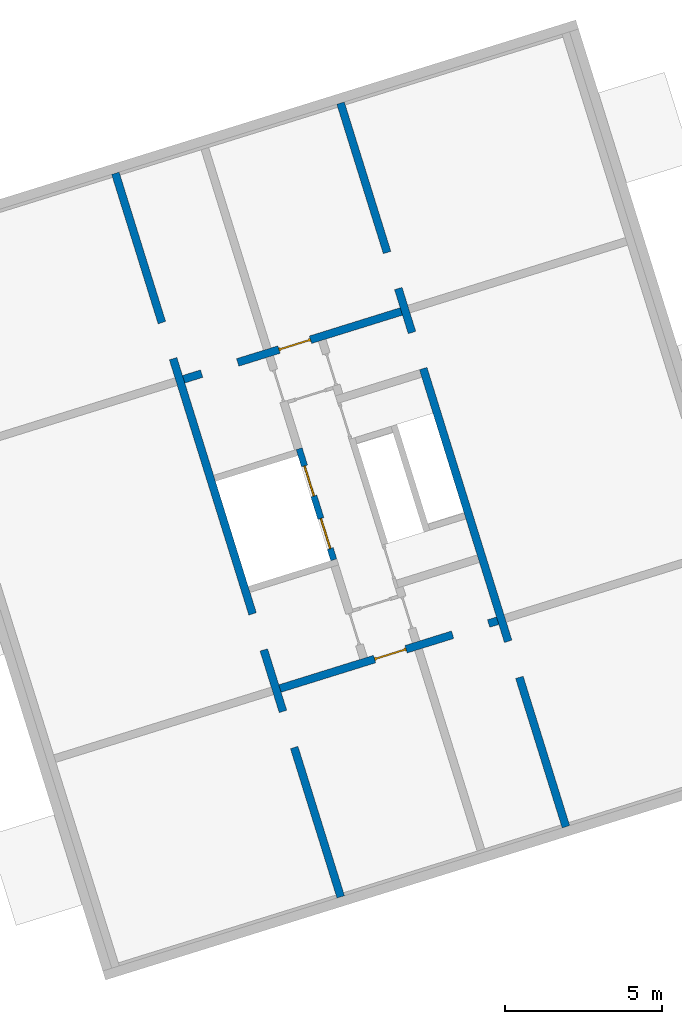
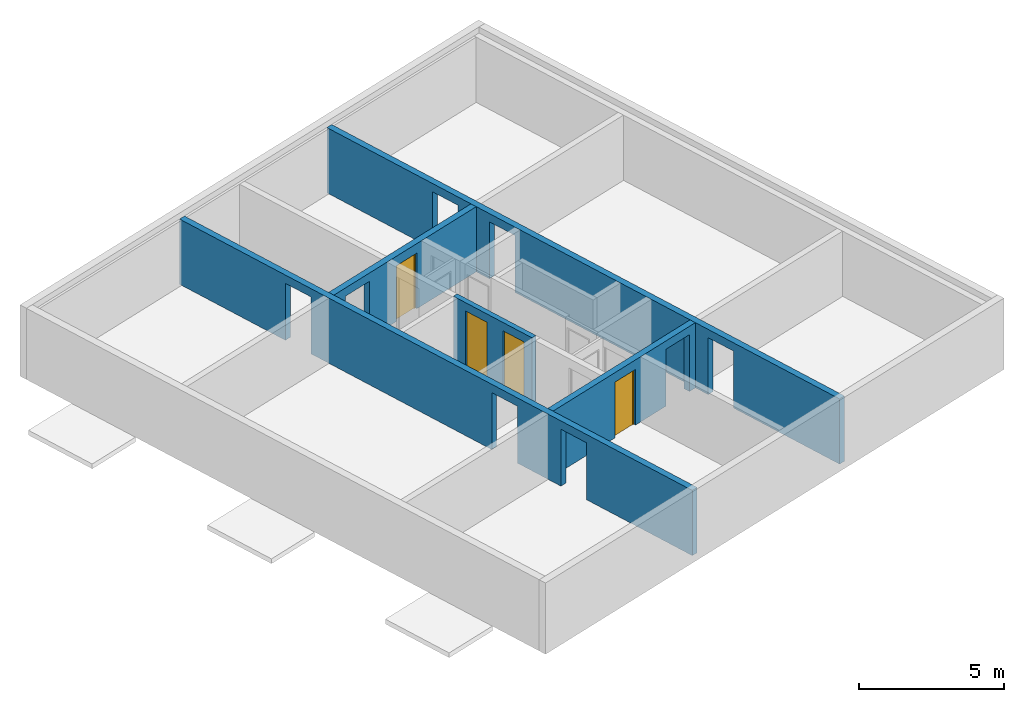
# One storey, part 3 of 3: 5 walls, 4 doors, 12 openings.
"""IFC4 building model written with IfcOpenShell, lengths in metres."""

from ifc_helpers import new_model, entity, si_unit, converted_unit, direction, frame, origin, place, context, subcontext, project, spatial, indexed_curve, outline, extrude, polygons, source, transform, mapped, material, constituent, constituent_set, type_object, type_shapes, element, fill, save


model = new_model("IFC4")

# Units and contexts
model_context = context("Model", 3, precision=1e-05, world=origin(), true_north=direction((6.12323399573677e-17, 1.0)))
body_context = subcontext(model_context, "Body", "Model", "MODEL_VIEW")
ifc_project = project(units=[si_unit("LENGTHUNIT", "METRE"), si_unit("AREAUNIT", "SQUARE_METRE"), si_unit("VOLUMEUNIT", "CUBIC_METRE"), converted_unit("PLANEANGLEUNIT", "DEGREE", entity("IfcPlaneAngleMeasure", 0.0174532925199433), si_unit("PLANEANGLEUNIT", "RADIAN"), dimensions=[0, 0, 0, 0, 0, 0, 0])], contexts=[model_context])

# Site, building, storey
site_placement = place(None, frame((13.1347999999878, 11.9886000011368, 0.0), z_axis=(0.0, 0.0, 1.0), x_axis=(0.954770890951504, 0.297342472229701, 0.0)))
site = spatial("IfcSite", under=ifc_project, at=site_placement, Name="Schiehaven", CompositionType="ELEMENT")
building_placement = place(site_placement, origin())
building = spatial("IfcBuilding", under=site, at=building_placement, Name="VORM huis", CompositionType="ELEMENT")
storey_placement = place(building_placement, frame((0.0, 0.0, 24.9)))
storey = spatial("IfcBuildingStorey", under=building, at=storey_placement, Name="08 achtste verdieping", CompositionType="ELEMENT", Elevation=24.9)

# Wall, openings
ifc_material_1 = material(Name="beton_gewapend_ihw", Category="Miscellaneous")
wall_type_1 = type_object("IfcWallType", Name="Basic Wall:28_WA_skelet_wand 250mm_gen", PredefinedType="STANDARD")
wall_1_placement = place(storey_placement, frame((12.5, 5.0, 0.0), z_axis=(0.0, 0.0, 1.0), x_axis=(0.0, 1.0, 0.0)))
wall_1 = element("IfcWall", 1, at=wall_1_placement, inside=storey, type_object=wall_type_1, material=ifc_material_1, Name="Constructieve wand", ObjectType="Wand", PredefinedType="NOTDEFINED", context=body_context, shape_type="Tessellation", body=[
    polygons([(24.1, -0.125, 0.0), (24.1, -0.125, 2.75), (17.325, -0.124999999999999, 2.75), (17.075, -0.125, 2.75), (7.025, -0.124999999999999, 2.75), (6.775, -0.125, 2.75), (2.16573425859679e-15, -0.124999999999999, 2.75), (2.16573425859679e-15, -0.124999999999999, 0.0), (4.975, -0.124999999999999, 0.0), (4.975, -0.124999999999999, 2.4), (6.175, -0.124999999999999, 2.4), (6.175, -0.124999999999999, 0.0), (6.775, -0.125, 0.0), (7.025, -0.124999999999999, 0.0), (8.22500000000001, -0.124999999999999, 0.0), (8.22500000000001, -0.124999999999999, 2.4), (9.425, -0.124999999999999, 2.4), (9.425, -0.124999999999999, 0.0), (17.075, -0.125, 0.0), (17.325, -0.124999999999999, 0.0), (17.925, -0.125, 0.0), (17.925, -0.125, 2.4), (19.125, -0.125, 2.4), (19.125, -0.125, 0.0), (24.1, 0.125, 2.75), (24.1, 0.125, 0.0), (19.125, 0.125, 0.0), (19.125, 0.125, 2.4), (17.925, 0.125, 2.4), (17.925, 0.125, 0.0), (9.425, 0.125, 0.0), (9.425, 0.125, 2.4), (8.225, 0.125, 2.4), (8.225, 0.125, 0.0), (6.175, 0.125, 0.0), (6.175, 0.125, 2.4), (4.975, 0.125000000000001, 2.4), (4.975, 0.125000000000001, 0.0), (1.08286712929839e-15, 0.125, 0.0), (0.0, 0.125, 2.75)], [[[1, 2, 3, 4, 5, 6, 7, 8, 9, 10, 11, 12, 13, 14, 15, 16, 17, 18, 19, 20, 21, 22, 23, 24]], [[25, 26, 27, 28, 29, 30, 31, 32, 33, 34, 35, 36, 37, 38, 39, 40]], [[8, 39, 38, 9]], [[2, 1, 26, 25]], [[7, 6, 5, 4, 3, 2, 25, 40]], [[8, 7, 40, 39]], [[10, 37, 36, 11]], [[37, 10, 9, 38]], [[11, 36, 35, 12]], [[16, 33, 32, 17]], [[33, 16, 15, 34]], [[17, 32, 31, 18]], [[22, 29, 28, 23]], [[29, 22, 21, 30]], [[23, 28, 27, 24]], [[12, 35, 34, 15, 14, 13]], [[18, 31, 30, 21, 20, 19]], [[26, 1, 24, 27]]], closed=True),
])
opening_1_placement = place(wall_1_placement, origin())
element("IfcOpeningElement", 2, at=opening_1_placement, cuts=wall_1, Name="Constructieve wand", PredefinedType="OPENING", context=body_context, shape_type="SweptSolid", body=[
    extrude(outline(indexed_curve([(-1.2, -0.599999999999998), (1.2, -0.599999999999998), (1.2, 0.599999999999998), (-1.2, 0.599999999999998), (-1.2, -0.599999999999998)], self_intersect=False)), frame((5.575, -0.124999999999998, 1.2), z_axis=(0.0, 1.0, 0.0), x_axis=(0.0, 0.0, -1.0)), (0.0, 0.0, 1.0), 0.249999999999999),
])
opening_2_placement = place(wall_1_placement, origin())
element("IfcOpeningElement", 3, at=opening_2_placement, cuts=wall_1, Name="Constructieve wand", PredefinedType="OPENING", context=body_context, shape_type="SweptSolid", body=[
    extrude(outline(indexed_curve([(-1.2, -0.599999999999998), (1.2, -0.599999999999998), (1.2, 0.599999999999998), (-1.2, 0.599999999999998), (-1.2, -0.599999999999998)], self_intersect=False)), frame((8.82500000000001, -0.124999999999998, 1.2), z_axis=(0.0, 1.0, 0.0), x_axis=(0.0, 0.0, -1.0)), (0.0, 0.0, 1.0), 0.249999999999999),
])
opening_3_placement = place(wall_1_placement, origin())
element("IfcOpeningElement", 4, at=opening_3_placement, cuts=wall_1, Name="Constructieve wand", PredefinedType="OPENING", context=body_context, shape_type="SweptSolid", body=[
    extrude(outline(indexed_curve([(-1.2, -0.599999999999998), (1.2, -0.599999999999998), (1.2, 0.600000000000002), (-1.2, 0.600000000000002), (-1.2, -0.599999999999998)], self_intersect=False)), frame((18.525, -0.124999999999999, 1.2), z_axis=(0.0, 1.0, 0.0), x_axis=(0.0, 0.0, -1.0)), (0.0, 0.0, 1.0), 0.249999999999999),
])

# Wall, openings, door
wall_2_placement = place(storey_placement, frame((12.6250000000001, 22.2, 0.0)))
wall_2 = element("IfcWall", 5, at=wall_2_placement, inside=storey, type_object=wall_type_1, material=ifc_material_1, Name="Constructieve wand", ObjectType="Wand", PredefinedType="NOTDEFINED", context=body_context, shape_type="Tessellation", body=[
    polygons([(4.225, -0.124999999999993, 2.34999999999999), (4.225, -0.124999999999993, 0.0), (7.25, -0.124999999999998, 0.0), (7.25, -0.124999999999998, 2.75), (8.76648531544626e-16, -0.124999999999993, 2.75), (3.04238279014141e-15, -0.124999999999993, 0.0), (0.600000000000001, -0.124999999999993, 0.0), (0.600000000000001, -0.124999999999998, 2.4), (1.8, -0.124999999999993, 2.4), (1.8, -0.124999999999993, 0.0), (3.175, -0.124999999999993, 0.0), (3.175, -0.124999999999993, 2.34999999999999), (7.25000000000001, 0.125000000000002, 0.0), (4.225, 0.125000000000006, 0.0), (4.225, 0.125000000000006, 2.34999999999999), (3.175, 0.125000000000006, 2.34999999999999), (3.175, 0.125000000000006, 0.0), (1.8, 0.125000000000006, 0.0), (1.8, 0.125000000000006, 2.4), (0.6, 0.125000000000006, 2.4), (0.6, 0.125000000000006, 0.0), (2.09575778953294e-15, 0.125000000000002, 0.0), (2.09575778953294e-15, 0.125000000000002, 2.75), (7.25000000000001, 0.125000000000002, 2.75)], [[[1, 2, 3, 4, 5, 6, 7, 8, 9, 10, 11, 12]], [[13, 14, 15, 16, 17, 18, 19, 20, 21, 22, 23, 24]], [[6, 22, 21, 7]], [[5, 4, 24, 23]], [[17, 16, 12, 11]], [[15, 14, 2, 1]], [[16, 15, 1, 12]], [[20, 8, 7, 21]], [[9, 19, 18, 10]], [[8, 20, 19, 9]], [[4, 3, 13, 24]], [[6, 5, 23, 22]], [[11, 10, 18, 17]], [[3, 2, 14, 13]]], closed=True),
])
opening_4_placement = place(wall_2_placement, origin())
element("IfcOpeningElement", 6, at=opening_4_placement, cuts=wall_2, Name="Constructieve wand", PredefinedType="OPENING", context=body_context, shape_type="SweptSolid", body=[
    extrude(outline(indexed_curve([(-1.2, -0.6), (1.2, -0.6), (1.2, 0.6), (-1.2, 0.6), (-1.2, -0.6)], self_intersect=False)), frame((1.2, -0.125000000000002, 1.2), z_axis=(0.0, 1.0, 0.0), x_axis=(0.0, 0.0, -1.0)), (0.0, 0.0, 1.0), 0.250000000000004),
])
opening_5_placement = place(wall_2_placement, frame((4.225, 0.124999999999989, 0.0)))
opening_5 = element("IfcOpeningElement", 7, at=opening_5_placement, cuts=wall_2, Name="Woningtoegangsdeur", PredefinedType="OPENING", context=body_context, shape_type="SweptSolid", body=[
    extrude(outline(indexed_curve([(2.34999999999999, 1.05), (0.0, 1.05), (0.0, 1.08286712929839e-15), (2.34999999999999, 1.08286712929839e-15), (2.34999999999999, 1.05)], self_intersect=False)), frame((0.0, 0.0, 0.0), z_axis=(0.0, -1.0, 0.0), x_axis=(0.0, 0.0, 1.0)), (0.0, 0.0, 1.0), 0.25),
])
ifc_material_2 = material(Name="PD_a_binnenwandopeningen", Category="Miscellaneous")
ifc_constituent_1 = constituent(ifc_material_2, Name="PD_a_binnenwandopeningen", Category="Miscellaneous")
ifc_material_3 = material(Name="metaal_aluminium_ntb", Category="Miscellaneous")
ifc_constituent_2 = constituent(ifc_material_3, Name="metaal_aluminium_ntb", Category="Miscellaneous")
ifc_constituent_set_1 = constituent_set(constituents=[ifc_constituent_1, ifc_constituent_2])
ifc_constituent_3 = constituent(ifc_material_2, Name="PD_a_binnenwandopeningen", Category="Miscellaneous")
ifc_constituent_4 = constituent(ifc_material_3, Name="Panel", Category="Miscellaneous")
ifc_constituent_set_2 = constituent_set(constituents=[ifc_constituent_3, ifc_constituent_4])
door_type_1 = type_object("IfcDoorType", Name="32_DO_binnendeur enkel:woningtoegangsdeur", OperationType="REVOLVING", PredefinedType="DOOR", material=ifc_constituent_set_2)
shared_shape_1 = source(origin(), body_context, "Body", "SweptSolid", [
    extrude(outline(indexed_curve([(-1.16249999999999, -0.525000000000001), (1.18749999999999, -0.525), (1.18749999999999, 0.525000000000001), (-1.16249999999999, 0.525000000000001), (-1.16249999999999, 0.475), (1.13749999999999, 0.475), (1.13749999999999, -0.475), (-1.16249999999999, -0.475), (-1.16249999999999, -0.525000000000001)], self_intersect=False)), frame((0.525000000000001, 0.0749999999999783, 1.16249999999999), z_axis=(0.0, 1.0, 0.0), x_axis=(0.0, 0.0, 1.0)), (0.0, 0.0, 1.0), 0.1),
    extrude(outline(indexed_curve([(-0.025, -0.475), (0.025, -0.475), (0.025, 0.475), (-0.025, 0.475), (-0.025, -0.475)], self_intersect=False)), frame((0.525000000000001, 0.12499999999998, 0.0), z_axis=(0.0, 0.0, 1.0), x_axis=(0.0, 1.0, 0.0)), (0.0, 0.0, 1.0), 2.29999999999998),
])
type_shapes(door_type_1, [shared_shape_1])
door_1_placement = place(opening_5_placement, frame((0.0, 0.0, 0.0), z_axis=(0.0, 0.0, 1.0), x_axis=(-1.0, 0.0, 0.0)))
door_1 = element("IfcDoor", 8, at=door_1_placement, inside=storey, type_object=door_type_1, material=ifc_constituent_set_1, Name="Woningtoegangsdeur", ObjectType="Deur", OperationType="REVOLVING", OverallHeight=2.34999999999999, OverallWidth=1.05, PredefinedType="DOOR", context=body_context, shape_type="MappedRepresentation", body=[
    mapped(shared_shape_1, transform((0.0, 0.0, 0.0), scale=1.0)),
])
fill(opening_5, door_1)

# Wall, openings
wall_3_placement = place(storey_placement, frame((20.0, 29.1, 0.0), z_axis=(0.0, 0.0, 1.0), x_axis=(0.0, -1.0, 0.0)))
wall_3 = element("IfcWall", 9, at=wall_3_placement, inside=storey, type_object=wall_type_1, material=ifc_material_1, Name="Constructieve wand", ObjectType="Wand", PredefinedType="NOTDEFINED", context=body_context, shape_type="Tessellation", body=[
    polygons([(24.1, -0.124999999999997, 0.0), (24.1, -0.124999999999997, 2.75), (17.325, -0.124999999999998, 2.75), (17.075, -0.125, 2.75), (7.02499999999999, -0.124999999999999, 2.75), (6.77499999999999, -0.124999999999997, 2.75), (0.0, -0.124999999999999, 2.75), (0.0, -0.124999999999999, 0.0), (4.975, -0.125, 0.0), (4.975, -0.125000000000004, 2.4), (6.175, -0.124999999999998, 2.4), (6.175, -0.124999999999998, 0.0), (6.77499999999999, -0.124999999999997, 0.0), (7.02499999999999, -0.124999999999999, 0.0), (7.64, -0.124999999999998, 0.0), (7.64, -0.124999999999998, 2.4), (8.84, -0.124999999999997, 2.4), (8.84, -0.124999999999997, 0.0), (17.075, -0.125, 0.0), (17.325, -0.124999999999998, 0.0), (17.925, -0.124999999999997, 0.0), (17.925, -0.124999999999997, 2.4), (19.125, -0.125000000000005, 2.4), (19.125, -0.124999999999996, 0.0), (24.1, 0.125000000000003, 2.75), (24.1, 0.125000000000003, 0.0), (19.125, 0.124999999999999, 0.0), (19.125, 0.124999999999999, 2.4), (17.925, 0.125000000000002, 2.4), (17.925, 0.125000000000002, 0.0), (8.83999999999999, 0.125000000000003, 0.0), (8.83999999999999, 0.125000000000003, 2.4), (7.64, 0.125000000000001, 2.4), (7.64, 0.125000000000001, 0.0), (6.17499999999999, 0.125000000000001, 0.0), (6.17499999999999, 0.125000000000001, 2.4), (4.975, 0.125, 2.4), (4.975, 0.125, 0.0), (-4.33146851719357e-15, 0.125000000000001, 0.0), (-4.33146851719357e-15, 0.125000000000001, 2.75)], [[[1, 2, 3, 4, 5, 6, 7, 8, 9, 10, 11, 12, 13, 14, 15, 16, 17, 18, 19, 20, 21, 22, 23, 24]], [[25, 26, 27, 28, 29, 30, 31, 32, 33, 34, 35, 36, 37, 38, 39, 40]], [[8, 39, 38, 9]], [[2, 1, 26, 25]], [[7, 6, 5, 4, 3, 2, 25, 40]], [[8, 7, 40, 39]], [[10, 37, 36, 11]], [[37, 10, 9, 38]], [[11, 36, 35, 12]], [[16, 33, 32, 17]], [[33, 16, 15, 34]], [[17, 32, 31, 18]], [[22, 29, 28, 23]], [[29, 22, 21, 30]], [[23, 28, 27, 24]], [[12, 35, 34, 15, 14, 13]], [[18, 31, 30, 21, 20, 19]], [[26, 1, 24, 27]]], closed=True),
])
opening_6_placement = place(wall_3_placement, origin())
element("IfcOpeningElement", 10, at=opening_6_placement, cuts=wall_3, Name="Constructieve wand", PredefinedType="OPENING", context=body_context, shape_type="SweptSolid", body=[
    extrude(outline(indexed_curve([(-1.2, -0.599999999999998), (1.2, -0.599999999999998), (1.2, 0.599999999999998), (-1.2, 0.599999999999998), (-1.2, -0.599999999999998)], self_intersect=False)), frame((5.575, -0.125000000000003, 1.2), z_axis=(0.0, 1.0, 0.0), x_axis=(0.0, 0.0, -1.0)), (0.0, 0.0, 1.0), 0.250000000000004),
])
opening_7_placement = place(wall_3_placement, origin())
element("IfcOpeningElement", 11, at=opening_7_placement, cuts=wall_3, Name="Constructieve wand", PredefinedType="OPENING", context=body_context, shape_type="SweptSolid", body=[
    extrude(outline(indexed_curve([(-1.2, -0.599999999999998), (1.2, -0.599999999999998), (1.2, 0.599999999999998), (-1.2, 0.599999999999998), (-1.2, -0.599999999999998)], self_intersect=False)), frame((8.24, -0.125000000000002, 1.2), z_axis=(0.0, 1.0, 0.0), x_axis=(0.0, 0.0, -1.0)), (0.0, 0.0, 1.0), 0.250000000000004),
])
opening_8_placement = place(wall_3_placement, origin())
element("IfcOpeningElement", 12, at=opening_8_placement, cuts=wall_3, Name="Constructieve wand", PredefinedType="OPENING", context=body_context, shape_type="SweptSolid", body=[
    extrude(outline(indexed_curve([(-1.2, -0.599999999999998), (1.2, -0.599999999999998), (1.2, 0.599999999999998), (-1.2, 0.599999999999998), (-1.2, -0.599999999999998)], self_intersect=False)), frame((18.525, -0.125000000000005, 1.2), z_axis=(0.0, 1.0, 0.0), x_axis=(0.0, 0.0, -1.0)), (0.0, 0.0, 1.0), 0.250000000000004),
])

# Wall, openings, door
wall_4_placement = place(storey_placement, frame((19.875, 11.9, 0.0), z_axis=(0.0, 0.0, 1.0), x_axis=(-1.0, 0.0, 0.0)))
wall_4 = element("IfcWall", 13, at=wall_4_placement, inside=storey, type_object=wall_type_1, material=ifc_material_1, Name="Constructieve wand", ObjectType="Wand", PredefinedType="NOTDEFINED", context=body_context, shape_type="Tessellation", body=[
    polygons([(4.09999999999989, -0.125, 2.34999999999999), (4.09999999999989, -0.125, 0.0), (7.24999999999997, -0.125, 0.0), (7.24999999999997, -0.125, 2.75), (-7.13030427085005e-16, -0.125, 2.75), (-7.13030427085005e-16, -0.125, 0.0), (0.299999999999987, -0.125, 0.0), (0.299999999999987, -0.125, 2.4), (1.49999999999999, -0.125, 2.4), (1.49999999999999, -0.125, 0.0), (3.04999999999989, -0.125, 0.0), (3.04999999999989, -0.125, 2.34999999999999), (7.24999999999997, 0.125, 0.0), (4.09999999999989, 0.125, 0.0), (4.09999999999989, 0.125, 2.34999999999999), (3.04999999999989, 0.125, 2.34999999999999), (3.04999999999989, 0.125, 0.0), (1.49999999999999, 0.125, 0.0), (1.49999999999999, 0.125, 2.4), (0.299999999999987, 0.125, 2.4), (0.299999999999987, 0.125, 0.0), (-8.78309150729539e-16, 0.125, 0.0), (-8.78309150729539e-16, 0.125, 2.75), (7.24999999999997, 0.125, 2.75)], [[[1, 2, 3, 4, 5, 6, 7, 8, 9, 10, 11, 12]], [[13, 14, 15, 16, 17, 18, 19, 20, 21, 22, 23, 24]], [[6, 22, 21, 7]], [[5, 4, 24, 23]], [[17, 16, 12, 11]], [[15, 14, 2, 1]], [[16, 15, 1, 12]], [[8, 20, 19, 9]], [[20, 8, 7, 21]], [[9, 19, 18, 10]], [[6, 5, 23, 22]], [[4, 3, 13, 24]], [[11, 10, 18, 17]], [[3, 2, 14, 13]]], closed=True),
])
opening_9_placement = place(wall_4_placement, origin())
element("IfcOpeningElement", 14, at=opening_9_placement, cuts=wall_4, Name="Constructieve wand", PredefinedType="OPENING", context=body_context, shape_type="SweptSolid", body=[
    extrude(outline(indexed_curve([(-1.2, -0.599999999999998), (1.2, -0.599999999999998), (1.2, 0.600000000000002), (-1.2, 0.600000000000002), (-1.2, -0.599999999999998)], self_intersect=False)), frame((0.89999999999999, -0.125, 1.2), z_axis=(0.0, 1.0, 0.0), x_axis=(0.0, 0.0, -1.0)), (0.0, 0.0, 1.0), 0.249999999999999),
])
opening_10_placement = place(wall_4_placement, frame((4.09999999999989, 0.124999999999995, 0.0)))
opening_10 = element("IfcOpeningElement", 15, at=opening_10_placement, cuts=wall_4, Name="Woningtoegangsdeur", PredefinedType="OPENING", context=body_context, shape_type="SweptSolid", body=[
    extrude(outline(indexed_curve([(2.34999999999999, 1.05), (0.0, 1.05), (0.0, 1.08286712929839e-15), (2.34999999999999, 1.08286712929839e-15), (2.34999999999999, 1.05)], self_intersect=False)), frame((0.0, 0.0, 0.0), z_axis=(0.0, -1.0, 0.0), x_axis=(0.0, 0.0, 1.0)), (0.0, 0.0, 1.0), 0.25),
])
ifc_constituent_5 = constituent(ifc_material_2, Name="PD_a_binnenwandopeningen", Category="Miscellaneous")
ifc_constituent_6 = constituent(ifc_material_3, Name="metaal_aluminium_ntb", Category="Miscellaneous")
ifc_constituent_set_3 = constituent_set(constituents=[ifc_constituent_5, ifc_constituent_6])
door_2_placement = place(opening_10_placement, frame((0.0, 0.0, 0.0), z_axis=(0.0, 0.0, 1.0), x_axis=(-1.0, 0.0, 0.0)))
door_2 = element("IfcDoor", 16, at=door_2_placement, inside=storey, type_object=door_type_1, material=ifc_constituent_set_3, Name="Woningtoegangsdeur", ObjectType="Deur", OperationType="REVOLVING", OverallHeight=2.34999999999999, OverallWidth=1.05, PredefinedType="DOOR", context=body_context, shape_type="MappedRepresentation", body=[
    mapped(shared_shape_1, transform((0.0, 0.0, 0.0), scale=1.0)),
])
fill(opening_10, door_2)

# Wall, openings, doors
ifc_material_4 = material(Name="beton_gewapend_prefab-element", Category="Miscellaneous")
wall_type_2 = type_object("IfcWallType", Name="Basic Wall:28_WA_skelet_wand 200mm_gen", PredefinedType="STANDARD")
wall_5_placement = place(storey_placement, frame((15.4750000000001, 15.3, 0.0), z_axis=(0.0, 0.0, 1.0), x_axis=(0.0, 1.0, 0.0)))
wall_5 = element("IfcWall", 17, at=wall_5_placement, inside=storey, type_object=wall_type_2, material=ifc_material_4, Name="Constructieve wand", ObjectType="Wand", PredefinedType="NOTDEFINED", context=body_context, shape_type="Tessellation", body=[
    polygons([(3.69999999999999, -0.100000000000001, 2.75), (0.0, -0.100000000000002, 2.75), (0.0, -0.100000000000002, 0.0), (0.374999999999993, -0.0999999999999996, 0.0), (0.374999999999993, -0.100000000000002, 2.39999999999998), (1.37499999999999, -0.100000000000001, 2.39999999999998), (1.37499999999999, -0.100000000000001, 0.0), (2.125, -0.100000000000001, 0.0), (2.125, -0.100000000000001, 2.39999999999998), (3.125, -0.100000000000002, 2.39999999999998), (3.12499999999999, -0.1, 0.0), (3.69999999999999, -0.100000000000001, 0.0), (2.16573425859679e-15, 0.0999999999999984, 2.75), (3.49999999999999, 0.0999999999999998, 2.75), (3.69999999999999, 0.0999999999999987, 2.75), (3.69999999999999, 0.0999999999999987, 0.0), (3.49999999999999, 0.0999999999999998, 0.0), (3.125, 0.0999999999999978, 0.0), (3.125, 0.0999999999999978, 2.39999999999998), (2.125, 0.0999999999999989, 2.39999999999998), (2.125, 0.0999999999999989, 0.0), (1.37499999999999, 0.100000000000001, 0.0), (1.37499999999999, 0.100000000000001, 2.39999999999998), (0.374999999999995, 0.0999999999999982, 2.39999999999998), (0.374999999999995, 0.0999999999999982, 0.0), (0.0, 0.0999999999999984, 0.0)], [[[1, 2, 3, 4, 5, 6, 7, 8, 9, 10, 11, 12]], [[13, 14, 15, 16, 17, 18, 19, 20, 21, 22, 23, 24, 25, 26]], [[4, 3, 26, 25]], [[2, 1, 15, 14, 13]], [[6, 23, 22, 7]], [[24, 5, 4, 25]], [[23, 6, 5, 24]], [[10, 19, 18, 11]], [[20, 9, 8, 21]], [[19, 10, 9, 20]], [[1, 12, 16, 15]], [[3, 2, 13, 26]], [[7, 22, 21, 8]], [[16, 12, 11, 18, 17]]], closed=True),
])
opening_11_placement = place(wall_5_placement, frame((-15.3, 15.4750000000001, 0.0), z_axis=(0.0, 0.0, 1.0), x_axis=(0.0, -1.0, 0.0)))
opening_11 = element("IfcOpeningElement", 18, at=opening_11_placement, cuts=wall_5, Name="Brandweerlift", PredefinedType="OPENING", context=body_context, shape_type="SweptSolid", body=[
    extrude(outline(indexed_curve([(-1.19999999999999, -0.499999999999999), (1.19999999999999, -0.499999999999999), (1.19999999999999, 0.500000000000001), (-1.19999999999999, 0.500000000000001), (-1.19999999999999, -0.499999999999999)], self_intersect=False)), frame((15.7436720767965, 16.175, 1.19999999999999), z_axis=(-1.0, 0.0, 0.0), x_axis=(0.0, 0.0, -1.0)), (0.0, 0.0, 1.0), 0.756310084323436),
])
opening_12_placement = place(wall_5_placement, frame((-15.3, 15.4750000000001, 0.0), z_axis=(0.0, 0.0, 1.0), x_axis=(0.0, -1.0, 0.0)))
opening_12 = element("IfcOpeningElement", 19, at=opening_12_placement, cuts=wall_5, Name="Brandweerlift", PredefinedType="OPENING", context=body_context, shape_type="SweptSolid", body=[
    extrude(outline(indexed_curve([(-1.19999999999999, -0.500000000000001), (1.19999999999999, -0.500000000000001), (1.19999999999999, 0.499999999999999), (-1.19999999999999, 0.499999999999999), (-1.19999999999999, -0.500000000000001)], self_intersect=False)), frame((15.7436720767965, 17.925, 1.19999999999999), z_axis=(-1.0, 0.0, 0.0), x_axis=(0.0, 0.0, -1.0)), (0.0, 0.0, 1.0), 0.756310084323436),
])
door_type_2 = type_object("IfcDoorType", Name="66_WI_liftdeur:brandweerlift - tweezijdig toegankelijk", OperationType="NOTDEFINED", PredefinedType="DOOR", material=ifc_material_3)
shared_shape_2 = source(origin(), body_context, "Body", "SweptSolid", [
    extrude(outline(indexed_curve([(-0.0250000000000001, -0.25), (0.0249999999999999, -0.25), (0.0250000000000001, 0.25), (-0.0249999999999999, 0.25), (-0.0250000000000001, -0.25)], self_intersect=False)), frame((0.250000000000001, 0.487638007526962, 0.0), z_axis=(0.0, 0.0, 1.0), x_axis=(0.0, 1.0, 0.0)), (0.0, 0.0, 1.0), 2.39999999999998),
    extrude(outline(indexed_curve([(-0.0250000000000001, -0.25), (0.0249999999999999, -0.25), (0.0250000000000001, 0.25), (-0.0249999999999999, 0.25), (-0.0250000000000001, -0.25)], self_intersect=False)), frame((0.750000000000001, 0.48763800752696, 0.0), z_axis=(0.0, 0.0, 1.0), x_axis=(0.0, 1.0, 0.0)), (0.0, 0.0, 1.0), 2.39999999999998),
])
type_shapes(door_type_2, [shared_shape_2])
door_3_placement = place(opening_11_placement, frame((14.9873619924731, 16.675, 0.0), z_axis=(0.0, 0.0, 1.0), x_axis=(0.0, -1.0, 0.0)))
door_3 = element("IfcDoor", 20, at=door_3_placement, inside=storey, type_object=door_type_2, material=ifc_material_3, Name="Brandweerlift", ObjectType="Transport", OperationType="NOTDEFINED", OverallHeight=2.39999999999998, OverallWidth=1.0, PredefinedType="DOOR", context=body_context, shape_type="MappedRepresentation", body=[
    mapped(shared_shape_2, transform((0.0, 0.0, 0.0), scale=1.0)),
])
fill(opening_11, door_3)
door_4_placement = place(opening_12_placement, frame((14.9873619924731, 18.425, 0.0), z_axis=(0.0, 0.0, 1.0), x_axis=(0.0, -1.0, 0.0)))
door_4 = element("IfcDoor", 21, at=door_4_placement, inside=storey, type_object=door_type_2, material=ifc_material_3, Name="Brandweerlift", ObjectType="Transport", OperationType="NOTDEFINED", OverallHeight=2.39999999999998, OverallWidth=1.0, PredefinedType="DOOR", context=body_context, shape_type="MappedRepresentation", body=[
    mapped(shared_shape_2, transform((0.0, 0.0, 0.0), scale=1.0)),
])
fill(opening_12, door_4)

save(model, "model.ifc")
